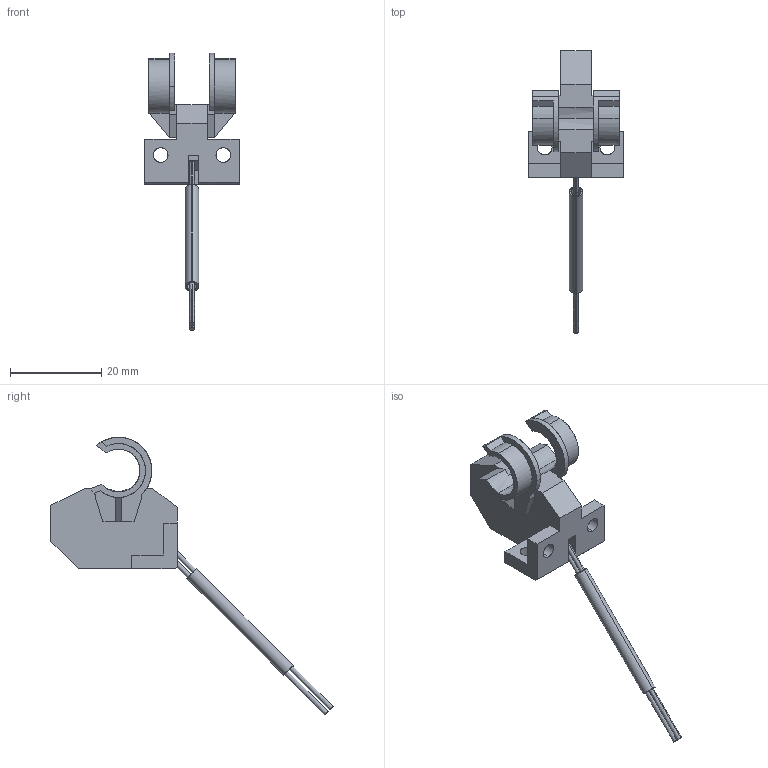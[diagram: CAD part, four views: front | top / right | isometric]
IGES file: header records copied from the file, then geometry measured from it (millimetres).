
Start section: SolidWorks IGES file using analytic representation for surfaces
Global section: file name: C:\catalog\fd-bef95.IGS; native system: SolidWorks 2017; preprocessor: SolidWorks 2017; author: 4056390; date: 200924.103734; units: millimetre
Bounding box: 20.7 x 61.79 x 60.79 mm (x, y, z)
Surface area: 3735.5 mm2 (no closed solid volume)
Topology: 0 solids, 0 shells, 98 faces, 1198 edges, 1198 vertices
Faces by surface type: bspline 67, revolution 31
